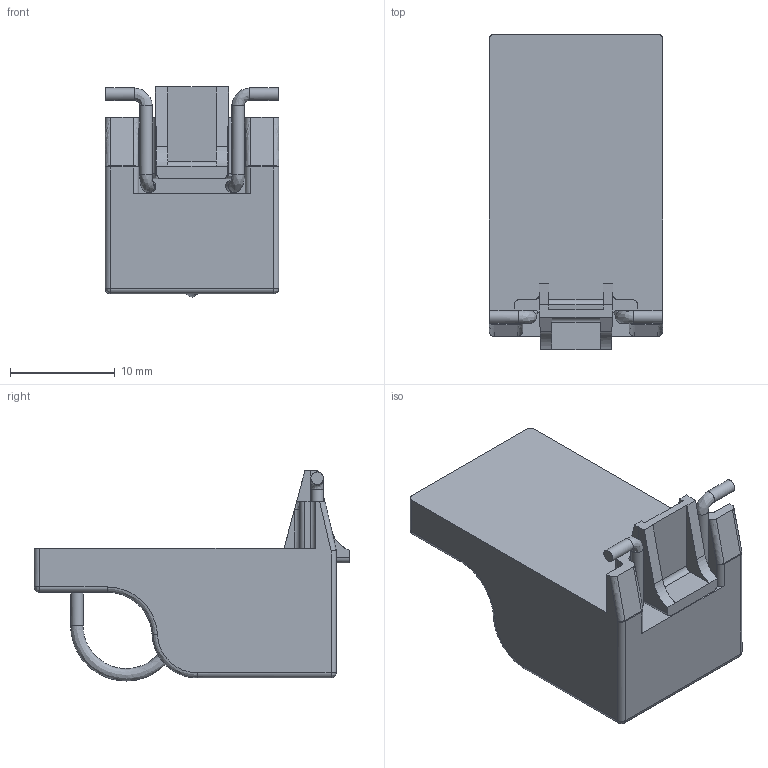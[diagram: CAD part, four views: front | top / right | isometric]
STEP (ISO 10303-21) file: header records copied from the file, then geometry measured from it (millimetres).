
FILE_DESCRIPTION(/* description */ (''),/* implementation_level */ '2;1');
FILE_NAME(/* name */ 'K09137_001_2-DEASS.stp',/* time_stamp */ '2019-09-17T07:42:05+02:00',/* author */ (''),/* organization */ (''),/* preprocessor_version */ 'ST-DEVELOPER v16',/* originating_system */ 'SIEMENS PLM Software NX 11.0',/* authorisation */ '');
FILE_SCHEMA (('AUTOMOTIVE_DESIGN { 1 0 10303 214 3 1 1 1 }'));
Length unit declared in the file: millimetre
Products named in the file (1): mich2AA82914ylur
Bounding box: 16.6 x 30.2 x 20.1 mm (x, y, z)
Volume: 4359.4 mm3; surface area: 2697.2 mm2
Topology: 1 solids, 1 shells, 141 faces, 365 edges, 222 vertices
Faces by surface type: bspline 141
Entity records: 4584 total; most frequent: CARTESIAN_POINT 2624, ORIENTED_EDGE 664, EDGE_CURVE 332, VERTEX_POINT 208, B_SPLINE_CURVE_WITH_KNOTS 206, EDGE_LOOP 160, ADVANCED_FACE 141, FACE_OUTER_BOUND 124
